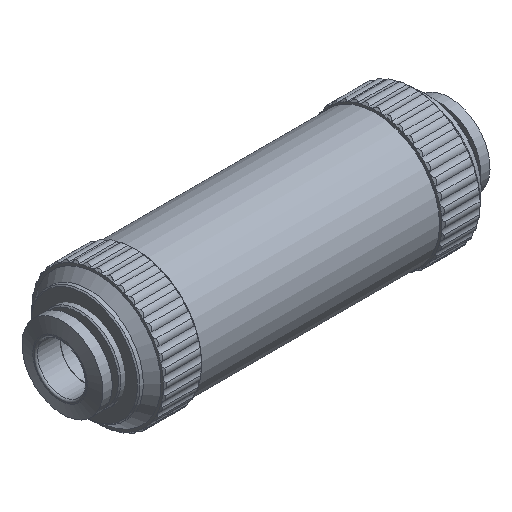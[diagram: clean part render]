
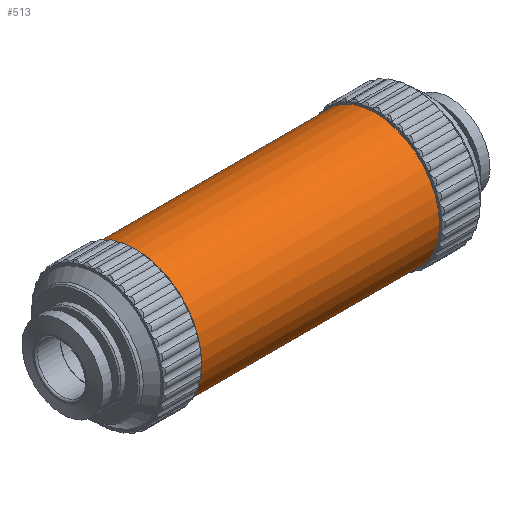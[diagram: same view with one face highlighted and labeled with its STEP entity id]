
A CAD part, isometric view. The second image highlights one B-rep face of the part: STEP entity #513.
In plain terms, the highlighted cylindrical face has radius 11 mm (diameter 22 mm), a full revolution.
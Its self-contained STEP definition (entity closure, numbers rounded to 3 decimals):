
#513=ADVANCED_FACE('',(#1167,#1168),#1169,.T.);
#1167=FACE_OUTER_BOUND('',#1943,.T.);
#1168=FACE_OUTER_BOUND('',#1944,.T.);
#1169=CYLINDRICAL_SURFACE('',#1945,11.0);
#1943=EDGE_LOOP('',(#3933));
#1944=EDGE_LOOP('',(#3934));
#1945=AXIS2_PLACEMENT_3D('',#3935,#3936,#3937);
#3933=ORIENTED_EDGE('',*,*,#5458,.T.);
#3934=ORIENTED_EDGE('',*,*,#5460,.F.);
#3935=CARTESIAN_POINT('',(68.0,0.0,0.0));
#3936=DIRECTION('',(-1.0,0.0,0.0));
#3937=DIRECTION('',(0.0,0.0,-1.0));
#5458=EDGE_CURVE('',#6685,#6685,#6686,.T.);
#5460=EDGE_CURVE('',#6689,#6689,#6690,.T.);
#6685=VERTEX_POINT('',#11453);
#6686=CIRCLE('',#11454,11.0);
#6689=VERTEX_POINT('',#11457);
#6690=CIRCLE('',#11458,11.0);
#11453=CARTESIAN_POINT('',(13.7,0.0,-11.0));
#11454=AXIS2_PLACEMENT_3D('',#12845,#12846,#12847);
#11457=CARTESIAN_POINT('',(54.3,0.0,-11.0));
#11458=AXIS2_PLACEMENT_3D('',#12851,#12852,#12853);
#12845=CARTESIAN_POINT('',(13.7,0.0,0.0));
#12846=DIRECTION('',(1.0,0.0,0.0));
#12847=DIRECTION('',(0.0,0.0,-1.0));
#12851=CARTESIAN_POINT('',(54.3,0.0,0.0));
#12852=DIRECTION('',(1.0,0.0,0.0));
#12853=DIRECTION('',(0.0,0.0,-1.0));
